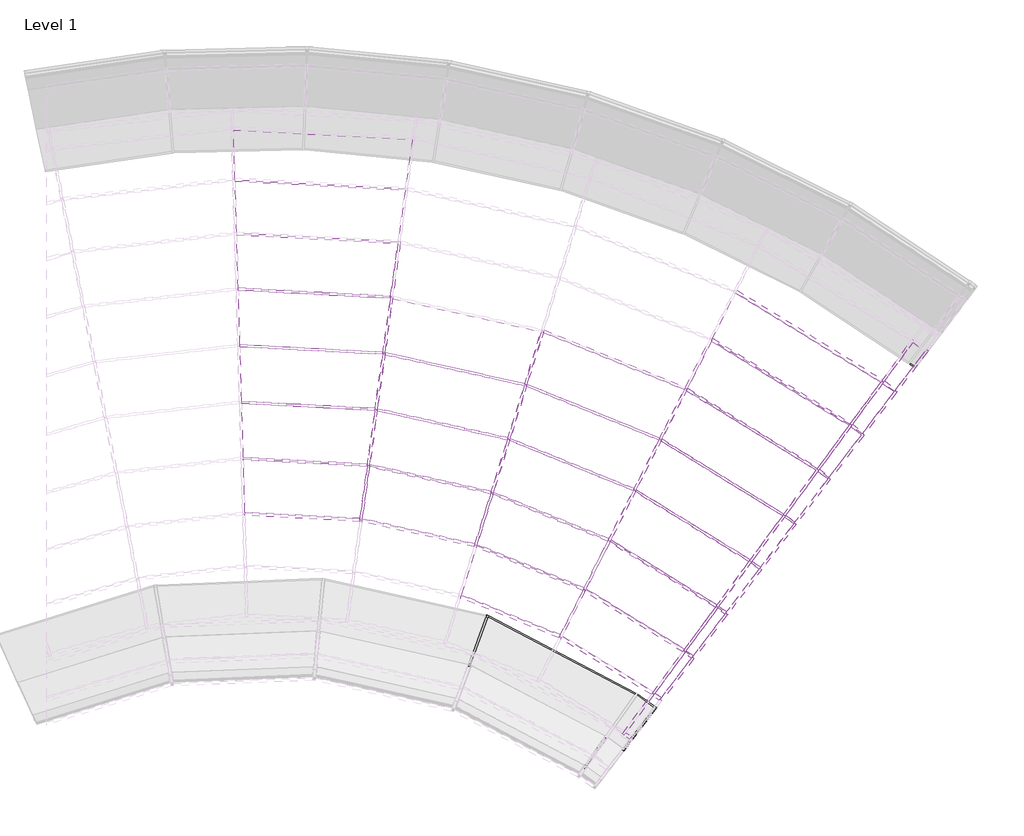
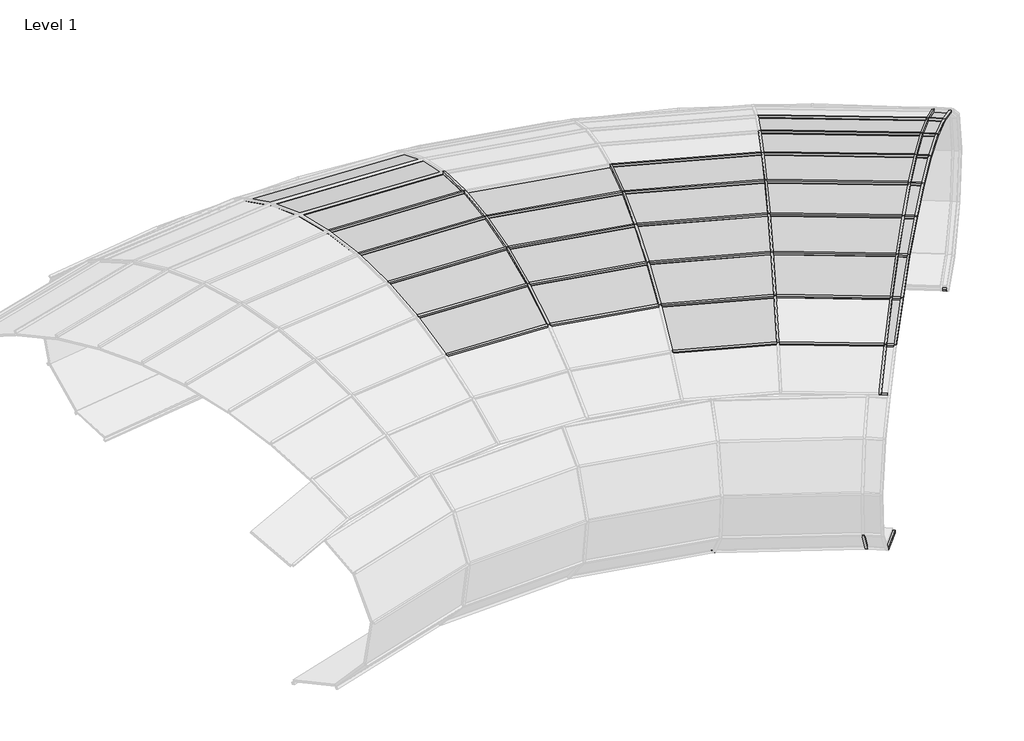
# One storey, part 11 of 23: 70 members, 30 plates.
"""IFC4 building model written with IfcOpenShell, lengths in millimetres."""

from ifc_helpers import new_model, si_unit, origin, place, context, project, spatial, transform, mapped, element, save
from components import member_bff08ed3, member_9d0ecc57, member_3a6df916, member_eca8a4a2, member_088ab3f2, member_d0141056, member_eb56ffe8, member_dc232313, member_20936006, member_c628317b, member_691cbd0a, member_6de91377, member_1afcac62, member_1c681369, member_9272082a, member_20199af6, member_5b501c0e, member_86ced42f, member_955aa5bb, member_c28afb9a, member_d6b8231b, member_98341453, member_8c9da58c, member_173a6c74, member_3142c306, member_0cd36c09, member_d0a40a1c, member_e4cc2466, member_9a5219bf, member_20c667eb, member_7149052c, system_panel_glazed_11031df9, system_panel_glazed_55877d03, system_panel_glazed_6b8754b1, system_panel_glazed_fa29fb8c, system_panel_glazed_51026fb6, system_panel_glazed_eab3d7f1, system_panel_glazed_e1e187d2, system_panel_glazed_d7dbf363, system_panel_glazed_71638be0, system_panel_glazed_d8ad03ad, system_panel_glazed_05378adf, system_panel_glazed_bcda8126, system_panel_glazed_d39a2736, system_panel_glazed_5c131dfc, system_panel_glazed_45b67513, system_panel_glazed_db05a576

model = new_model("IFC4")

# Units and contexts
model_context = context("Model", 3, world=origin())
ifc_project = project(units=[si_unit("LENGTHUNIT", "METRE", prefix="MILLI")], contexts=[model_context])

# Site, building, storey
site = spatial("IfcSite", under=ifc_project)
building = spatial("IfcBuilding", under=site)
storey = spatial("IfcBuildingStorey", under=building, Name="Level 1", Elevation=0.0)

# Members
placement = place(None, origin())
member_shape = member_bff08ed3(model_context)
element("IfcMember", 1, ObjectType="Rectangular Mullion : 1\" Square", at=placement, inside=storey, context=model_context, shape_type="MappedRepresentation", body=[
    mapped(member_shape, transform((2301.5056599, -6690.896124, 0.0), x_axis=(0.445109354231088, 0.8497435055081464, -0.28251307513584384), y_axis=(-0.1310893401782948, -0.25025831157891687, -0.9592634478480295), z_axis=(-0.8858291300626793, 0.46401158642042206, 0.0))),
])
member_2_shape = member_9d0ecc57(model_context)
element("IfcMember", 2, ObjectType="Rectangular Mullion : 1\" Square", at=placement, inside=storey, context=model_context, shape_type="MappedRepresentation", body=[
    mapped(member_2_shape, transform((3896.1567783, -7528.3327614, 0.0), x_axis=(0.5669356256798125, 0.7745913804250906, -0.28034298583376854), y_axis=(-0.16557604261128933, -0.2262228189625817, -0.9598998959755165), z_axis=(-0.8069501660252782, 0.5906195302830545, 0.0))),
])
member_3_shape = member_3a6df916(model_context)
element("IfcMember", 3, ObjectType="Rectangular Mullion : 1\" Square", at=placement, inside=storey, context=model_context, shape_type="MappedRepresentation", body=[
    mapped(member_3_shape, transform((2325.1422191, -5370.4577997, 2763.3769688), x_axis=(0.21296612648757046, 0.956219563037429, 0.20072263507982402), y_axis=(-0.04363518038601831, -0.19592229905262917, 0.9796481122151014), z_axis=(0.9760847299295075, -0.21739043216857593, 0.0))),
])
element("IfcMember", 4, ObjectType="Rectangular Mullion : 1\" Square", at=placement, inside=storey, context=model_context, shape_type="MappedRepresentation", body=[
    mapped(member_3_shape, transform((3580.451597, -5876.7686495, 2763.3769688), x_axis=(0.3678494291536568, 0.9079632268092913, 0.20072263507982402), y_axis=(-0.07536962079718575, -0.18603493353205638, 0.9796481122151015), z_axis=(0.9268258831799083, -0.3754913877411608, 0.0))),
])
element("IfcMember", 5, ObjectType="Rectangular Mullion : 1\" Square", at=placement, inside=storey, context=model_context, shape_type="MappedRepresentation", body=[
    mapped(member_3_shape, transform((4734.9935766, -6583.2989946, 2763.3769688), x_axis=(0.5126454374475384, 0.8348084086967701, 0.2007226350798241), y_axis=(-0.105037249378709, -0.1710460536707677, 0.9796481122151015), z_axis=(0.8521512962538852, -0.523295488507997, 0.0))),
])
element("IfcMember", 6, ObjectType="Rectangular Mullion : 1\" Square", at=placement, inside=storey, context=model_context, shape_type="MappedRepresentation", body=[
    mapped(member_3_shape, transform((1003.4889711, -5078.2506764, 2763.3769688), x_axis=(0.05224279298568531, 0.9782541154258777, 0.20072263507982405), y_axis=(-0.010704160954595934, -0.20043701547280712, 0.9796481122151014), z_axis=(0.9985770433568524, -0.05332812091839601, 0.0))),
])
member_4_shape = member_eca8a4a2(model_context)
element("IfcMember", 7, ObjectType="Rectangular Mullion : 1\" Square", at=placement, inside=storey, context=model_context, shape_type="MappedRepresentation", body=[
    mapped(member_4_shape, transform((4836.4355375, -6657.7087757, 2763.3769688), x_axis=(0.5866174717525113, 0.7844743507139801, 0.20119625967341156), y_axis=(-0.12048912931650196, -0.1611282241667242, 0.9795509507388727), z_axis=(0.8008509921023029, -0.5988636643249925, 0.0))),
])
member_5_shape = member_088ab3f2(model_context)
element("IfcMember", 8, ObjectType="Rectangular Mullion : 1\" Square", at=placement, inside=storey, context=model_context, shape_type="MappedRepresentation", body=[
    mapped(member_5_shape, transform((1085.4446195, -4480.4538718, 2850.17796), x_axis=(0.053143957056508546, 0.995128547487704, 0.08303549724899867), y_axis=(-0.004428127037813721, -0.08291734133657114, 0.996546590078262), z_axis=(0.9985770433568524, -0.05332812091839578, 0.0))),
])
element("IfcMember", 9, ObjectType="Rectangular Mullion : 1\" Square", at=placement, inside=storey, context=model_context, shape_type="MappedRepresentation", body=[
    mapped(member_5_shape, transform((2504.6275681, -4794.3824943, 2850.17796), x_axis=(0.2166396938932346, 0.9727139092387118, 0.08303549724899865), y_axis=(-0.01805112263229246, -0.08104968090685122, 0.996546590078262), z_axis=(0.9760847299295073, -0.21739043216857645, 0.0))),
])
element("IfcMember", 10, ObjectType="Rectangular Mullion : 1\" Square", at=placement, inside=storey, context=model_context, shape_type="MappedRepresentation", body=[
    mapped(member_5_shape, transform((3852.5447372, -5338.2121799, 2850.17796), x_axis=(0.3741946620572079, 0.9236251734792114, 0.08303549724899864), y_axis=(-0.03117911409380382, -0.07695944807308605, 0.9965465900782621), z_axis=(0.9268258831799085, -0.3754913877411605, 0.0))),
])
element("IfcMember", 11, ObjectType="Rectangular Mullion : 1\" Square", at=placement, inside=storey, context=model_context, shape_type="MappedRepresentation", body=[
    mapped(member_5_shape, transform((5092.2330757, -6097.0298425, 2850.17796), x_axis=(0.5214883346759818, 0.8492084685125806, 0.08303549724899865), y_axis=(-0.043452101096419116, -0.07075880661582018, 0.996546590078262), z_axis=(0.8521512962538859, -0.5232954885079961, 0.0))),
])
member_6_shape = member_d0141056(model_context)
element("IfcMember", 12, ObjectType="Rectangular Mullion : 1\" Square", at=placement, inside=storey, context=model_context, shape_type="MappedRepresentation", body=[
    mapped(member_6_shape, transform((923.5200016, -5661.5563471, 2605.3528615), x_axis=(0.05060252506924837, 0.94753985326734, 0.31560673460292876), y_axis=(-0.01683071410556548, -0.3151576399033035, 0.9488900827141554), z_axis=(0.9985770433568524, -0.05332812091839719, 0.0))),
])
element("IfcMember", 13, ObjectType="Rectangular Mullion : 1\" Square", at=placement, inside=storey, context=model_context, shape_type="MappedRepresentation", body=[
    mapped(member_6_shape, transform((2150.007757, -5932.5685198, 2605.3528615), x_axis=(0.206279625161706, 0.9261971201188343, 0.3156067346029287), y_axis=(-0.06860988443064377, -0.30805891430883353, 0.9488900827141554), z_axis=(0.9760847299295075, -0.21739043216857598, 0.0))),
])
element("IfcMember", 14, ObjectType="Rectangular Mullion : 1\" Square", at=placement, inside=storey, context=model_context, shape_type="MappedRepresentation", body=[
    mapped(member_6_shape, transform((3314.9542401, -6402.2700244, 2605.3528615), x_axis=(0.35630005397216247, 0.8794558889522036, 0.3156067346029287), y_axis=(-0.11850761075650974, -0.29251249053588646, 0.9488900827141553), z_axis=(0.9268258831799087, -0.3754913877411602, 0.0))),
])
element("IfcMember", 15, ObjectType="Rectangular Mullion : 1\" Square", at=placement, inside=storey, context=model_context, shape_type="MappedRepresentation", body=[
    mapped(member_6_shape, transform((4386.4138853, -7057.7805436, 2605.3528615), x_axis=(0.4965498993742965, 0.8085979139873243, 0.31560673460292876), y_axis=(-0.16515558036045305, -0.2689446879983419, 0.9488900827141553), z_axis=(0.8521512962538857, -0.5232954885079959, 0.0))),
])
member_7_shape = member_eb56ffe8(model_context)
element("IfcMember", 16, ObjectType="Rectangular Mullion : 1\" Square", at=placement, inside=storey, context=model_context, shape_type="MappedRepresentation", body=[
    mapped(member_7_shape, transform((4137.2242306, -7576.4158177, 2378.3537392), x_axis=(0.5415001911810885, 0.7241397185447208, 0.4270822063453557), y_axis=(-0.2557640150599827, -0.34202920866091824, 0.9042128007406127), z_axis=(0.8008509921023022, -0.5988636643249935, 0.0))),
])
member_8_shape = member_dc232313(model_context)
element("IfcMember", 17, ObjectType="Rectangular Mullion : 1\" Square", at=placement, inside=storey, context=model_context, shape_type="MappedRepresentation", body=[
    mapped(member_8_shape, transform((4051.4530067, -7513.724365, 2378.3537392), x_axis=(0.4734185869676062, 0.770930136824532, 0.42607694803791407), y_axis=(-0.22296414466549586, -0.36308202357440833, 0.9046869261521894), z_axis=(0.8521512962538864, -0.5232954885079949, 0.0))),
])
element("IfcMember", 18, ObjectType="Rectangular Mullion : 1\" Square", at=placement, inside=storey, context=model_context, shape_type="MappedRepresentation", body=[
    mapped(member_8_shape, transform((3059.8297158, -6907.2403557, 2378.3537392), x_axis=(0.3397021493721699, 0.8384872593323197, 0.42607694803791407), y_axis=(-0.1599882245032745, -0.39489914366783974, 0.9046869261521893), z_axis=(0.9268258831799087, -0.37549138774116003, 0.0))),
])
member_9_shape = member_20936006(model_context)
element("IfcMember", 19, ObjectType="Rectangular Mullion : 1\" Square", at=placement, inside=storey, context=model_context, shape_type="MappedRepresentation", body=[
    mapped(member_9_shape, transform((5201.8650497, -6177.5639856, 2850.17796), x_axis=(0.5967902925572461, 0.7980783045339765, 0.08314064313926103), y_axis=(-0.04978991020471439, -0.06658326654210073, 0.9965378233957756), z_axis=(0.800850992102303, -0.5988636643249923, 0.0))),
])
member_10_shape = member_c628317b(model_context)
element("IfcMember", 20, ObjectType="Rectangular Mullion : 1\" Square", at=placement, inside=storey, context=model_context, shape_type="MappedRepresentation", body=[
    mapped(member_10_shape, transform((1168.2210198, -3876.6703796, 2864.5209769), x_axis=(0.05329391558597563, 0.997936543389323, -0.03581080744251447), y_axis=(0.001909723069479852, 0.035759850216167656, 0.9993585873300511), z_axis=(0.9985770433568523, -0.05332812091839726, 0.0))),
])
element("IfcMember", 21, ObjectType="Rectangular Mullion : 1\" Square", at=placement, inside=storey, context=model_context, shape_type="MappedRepresentation", body=[
    mapped(member_10_shape, transform((2685.9103885, -4212.5380333, 2864.5209769), x_axis=(0.2172509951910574, 0.9754586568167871, -0.03581080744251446), y_axis=(0.007784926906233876, 0.03495438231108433, 0.999358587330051), z_axis=(0.9760847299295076, -0.21739043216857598, 0.0))),
])
element("IfcMember", 22, ObjectType="Rectangular Mullion : 1\" Square", at=placement, inside=storey, context=model_context, shape_type="MappedRepresentation", body=[
    mapped(member_10_shape, transform((4127.3627775, -4794.2622901, 2864.5209769), x_axis=(0.375250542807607, 0.9262314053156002, -0.03581080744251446), y_axis=(0.013446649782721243, 0.0331903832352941, 0.999358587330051), z_axis=(0.9268258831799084, -0.37549138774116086, 0.0))),
])
element("IfcMember", 23, ObjectType="Rectangular Mullion : 1\" Square", at=placement, inside=storey, context=model_context, shape_type="MappedRepresentation", body=[
    mapped(member_10_shape, transform((5453.0501805, -5605.8909062, 2864.5209769), x_axis=(0.5229598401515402, 0.8516047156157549, -0.03581080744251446), y_axis=(0.018739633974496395, 0.03051622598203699, 0.999358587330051), z_axis=(0.8521512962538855, -0.5232954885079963, 0.0))),
])
member_11_shape = member_691cbd0a(model_context)
element("IfcMember", 24, ObjectType="Rectangular Mullion : 1\" Square", at=placement, inside=storey, context=model_context, shape_type="MappedRepresentation", body=[
    mapped(member_11_shape, transform((5570.9541872, -5692.6107441, 2864.5209769), x_axis=(0.5984733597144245, 0.800329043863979, -0.036097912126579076), y_axis=(0.021617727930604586, 0.02890904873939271, 0.9993482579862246), z_axis=(0.8008509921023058, -0.5988636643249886, 0.0))),
])
member_12_shape = member_6de91377(model_context)
element("IfcMember", 25, ObjectType="Rectangular Mullion : 1\" Square", at=placement, inside=storey, context=model_context, shape_type="MappedRepresentation", body=[
    mapped(member_12_shape, transform((1250.6405687, -3275.4898148, 2806.2019711), x_axis=(0.052690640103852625, 0.9866401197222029, -0.1541589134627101), y_axis=(0.008221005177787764, 0.15393955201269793, 0.9880460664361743), z_axis=(0.9985770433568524, -0.053328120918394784, 0.0))),
])
element("IfcMember", 26, ObjectType="Rectangular Mullion : 1\" Square", at=placement, inside=storey, context=model_context, shape_type="MappedRepresentation", body=[
    mapped(member_12_shape, transform((4400.9960697, -4252.6573834, 2806.2019711), x_axis=(0.3710027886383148, 0.9157466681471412, -0.1541589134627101), y_axis=(0.05788534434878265, 0.14287847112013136, 0.9880460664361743), z_axis=(0.9268258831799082, -0.3754913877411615, 0.0))),
])
element("IfcMember", 27, ObjectType="Rectangular Mullion : 1\" Square", at=placement, inside=storey, context=model_context, shape_type="MappedRepresentation", body=[
    mapped(member_12_shape, transform((5812.3117927, -5116.8692835, 2806.2019711), x_axis=(0.5170400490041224, 0.8419647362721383, -0.15415891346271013), y_axis=(0.0806706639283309, 0.13136671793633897, 0.9880460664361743), z_axis=(0.8521512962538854, -0.5232954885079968, 0.0))),
])
member_13_shape = member_1afcac62(model_context)
element("IfcMember", 28, ObjectType="Rectangular Mullion : 1\" Square", at=placement, inside=storey, context=model_context, shape_type="MappedRepresentation", body=[
    mapped(member_13_shape, transform((5938.4521712, -5209.7481494, 2806.2019711), x_axis=(0.5916426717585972, 0.7911944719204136, -0.15482330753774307), y_axis=(0.09271805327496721, 0.1239903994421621, 0.9879421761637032), z_axis=(0.8008509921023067, -0.598863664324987, 0.0))),
])
member_14_shape = member_1c681369(model_context)
element("IfcMember", 29, ObjectType="Rectangular Mullion : 1\" Square", at=placement, inside=storey, context=model_context, shape_type="MappedRepresentation", body=[
    mapped(member_14_shape, transform((6164.9069432, -4636.9219506, 2676.0506073), x_axis=(0.5038079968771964, 0.8204172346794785, -0.27035728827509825), y_axis=(0.14147674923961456, 0.2303853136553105, 0.9627600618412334), z_axis=(0.852151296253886, -0.5232954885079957, 0.0))),
])
member_15_shape = member_9272082a(model_context)
element("IfcMember", 30, ObjectType="Rectangular Mullion : 1\" Square", at=placement, inside=storey, context=model_context, shape_type="MappedRepresentation", body=[
    mapped(member_15_shape, transform((6299.1308592, -4735.8455576, 2676.0506073), x_axis=(0.5763952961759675, 0.7708043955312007, -0.2713467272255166), y_axis=(0.16249969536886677, 0.21730829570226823, 0.9624816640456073), z_axis=(0.8008509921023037, -0.5988636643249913, 0.0))),
])
member_16_shape = member_20199af6(model_context)
element("IfcMember", 31, ObjectType="Rectangular Mullion : 1\" Square", at=placement, inside=storey, context=model_context, shape_type="MappedRepresentation", body=[
    mapped(member_16_shape, transform((6505.8195017, -4172.87679, 2475.91846), x_axis=(0.4834411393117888, 0.7872511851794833, -0.3827796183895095), y_axis=(0.20030684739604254, 0.32618614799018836, 0.9238396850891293), z_axis=(0.852151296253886, -0.5232954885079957, 0.0))),
])
member_17_shape = member_5b501c0e(model_context)
element("IfcMember", 32, ObjectType="Rectangular Mullion : 1\" Square", at=placement, inside=storey, context=model_context, shape_type="MappedRepresentation", body=[
    mapped(member_17_shape, transform((6647.8591221, -4277.6448567, 2475.91846), x_axis=(0.5529479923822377, 0.7394486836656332, -0.38401062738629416), y_axis=(0.2299700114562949, 0.30753529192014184, 0.9233286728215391), z_axis=(0.8008509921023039, -0.598863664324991, 0.0))),
])
member_18_shape = member_86ced42f(model_context)
element("IfcMember", 33, ObjectType="Rectangular Mullion : 1\" Square", at=placement, inside=storey, context=model_context, shape_type="MappedRepresentation", body=[
    mapped(member_18_shape, transform((4479.8643664, -7126.2144229, 2605.3528615), x_axis=(0.5680996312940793, 0.7597107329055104, 0.316389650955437), y_axis=(-0.18947426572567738, -0.2533809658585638, 0.9486293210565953), z_axis=(0.8008509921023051, -0.5988636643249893, 0.0))),
])
member_19_shape = member_955aa5bb(model_context)
element("IfcMember", 34, ObjectType="Rectangular Mullion : 1\" Square", at=placement, inside=storey, context=model_context, shape_type="MappedRepresentation", body=[
    mapped(member_19_shape, transform((3755.8693293, -7958.8954791, 2085.6089632), x_axis=(-0.5252863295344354, -0.702457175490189, -0.4802376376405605), y_axis=(-0.2875968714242, -0.38459878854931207, 0.8771384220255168), z_axis=(-0.800850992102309, 0.5988636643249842, 0.0))),
])
member_20_shape = member_c28afb9a(model_context)
element("IfcMember", 35, ObjectType="Rectangular Mullion : 1\" Square", at=placement, inside=storey, context=model_context, shape_type="MappedRepresentation", body=[
    mapped(member_20_shape, transform((6843.6513643, -4020.3884594, 0.0), x_axis=(-0.586881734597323, -0.7767931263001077, -0.22839060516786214), y_axis=(0.13767713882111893, 0.18222863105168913, -0.9735695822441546), z_axis=(0.7978814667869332, -0.6028143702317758, 0.0))),
])
member_21_shape = member_d6b8231b(model_context)
element("IfcMember", 36, ObjectType="Rectangular Mullion : 1\" Square", at=placement, inside=storey, context=model_context, shape_type="MappedRepresentation", body=[
    mapped(member_21_shape, transform((2290.2556299, -6685.0031769, 0.0), x_axis=(0.9387056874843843, -0.34471964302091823, 0.0), y_axis=(-0.0966241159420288, -0.2631170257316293, -0.9599131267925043), z_axis=(0.33090091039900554, 0.9010759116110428, -0.28029767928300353))),
])
member_22_shape = member_98341453(model_context)
element("IfcMember", 37, ObjectType="Rectangular Mullion : 1\" Square", at=placement, inside=storey, context=model_context, shape_type="MappedRepresentation", body=[
    mapped(member_22_shape, transform((4094.9824837, -7673.8564252, 0.0), x_axis=(0.7966275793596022, -0.6044494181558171, 0.00503991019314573), y_axis=(-0.16557604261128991, -0.22622281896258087, -0.9598998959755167), z_axis=(0.581351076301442, 0.7638482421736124, -0.28029767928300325))),
])
member_23_shape = member_8c9da58c(model_context)
element("IfcMember", 38, ObjectType="Rectangular Mullion : 1\" Square", at=placement, inside=storey, context=model_context, shape_type="MappedRepresentation", body=[
    mapped(member_23_shape, transform((3549.2039194, -7999.4191933, 170.8694653), x_axis=(0.817870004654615, -0.5754030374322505, 0.0), y_axis=(-0.43316610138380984, -0.6156963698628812, -0.6582439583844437), z_axis=(0.37875557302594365, 0.538357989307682, -0.7528046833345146))),
])
member_24_shape = member_173a6c74(model_context)
element("IfcMember", 39, ObjectType="Rectangular Mullion : 1\" Square", at=placement, inside=storey, context=model_context, shape_type="MappedRepresentation", body=[
    mapped(member_24_shape, transform((5958.7937864, -5224.9592865, 2806.2019711), x_axis=(0.7959799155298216, -0.6053204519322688, 0.0017676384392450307), y_axis=(0.12786350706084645, 0.17098986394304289, 0.9769408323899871), z_axis=(-0.5916645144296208, -0.7773992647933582, 0.21350289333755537))),
])
element("IfcMember", 40, ObjectType="Rectangular Mullion : 1\" Square", at=placement, inside=storey, context=model_context, shape_type="MappedRepresentation", body=[
    mapped(member_24_shape, transform((6319.4724744, -4751.0566947, 2676.0506073), x_axis=(0.7962973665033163, -0.6048996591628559, 0.0026280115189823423), y_axis=(0.19661369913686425, 0.26292841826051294, 0.9445695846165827), z_axis=(-0.5720607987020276, -0.7516415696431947, 0.32830076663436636))),
])
member_25_shape = member_3142c306(model_context)
element("IfcMember", 41, ObjectType="Rectangular Mullion : 1\" Square", at=placement, inside=storey, context=model_context, shape_type="MappedRepresentation", body=[
    mapped(member_25_shape, transform((6668.2007373, -4292.8559938, 2475.91846), x_axis=(0.7967283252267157, -0.6043284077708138, 0.0033393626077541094), y_axis=(0.26256629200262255, 0.35112578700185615, 0.8987600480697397), z_axis=(-0.544318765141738, -0.7151907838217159, 0.43842812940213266))),
])
member_26_shape = member_0cd36c09(model_context)
element("IfcMember", 42, ObjectType="Rectangular Mullion : 1\" Square", at=placement, inside=storey, context=model_context, shape_type="MappedRepresentation", body=[
    mapped(member_26_shape, transform((1263.3224971, -3276.1670819, 2806.2019711), x_axis=(0.9907327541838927, -0.13582565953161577, 0.0), y_axis=(0.02899917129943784, 0.21152430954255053, 0.9769424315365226), z_axis=(-0.1326938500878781, -0.9678888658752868, 0.2135028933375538))),
])
element("IfcMember", 43, ObjectType="Rectangular Mullion : 1\" Square", at=placement, inside=storey, context=model_context, shape_type="MappedRepresentation", body=[
    mapped(member_26_shape, transform((4412.7667584, -4257.426124, 2806.2019711), x_axis=(0.8925533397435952, -0.4509418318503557, 0.0), y_axis=(0.09627738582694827, 0.19056272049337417, 0.9769424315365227), z_axis=(-0.4405442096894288, -0.8719732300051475, 0.21350289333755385))),
])
element("IfcMember", 44, ObjectType="Rectangular Mullion : 1\" Square", at=placement, inside=storey, context=model_context, shape_type="MappedRepresentation", body=[
    mapped(member_26_shape, transform((5823.1341142, -5123.5151362, 2806.2019711), x_axis=(0.8058972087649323, -0.5920554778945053, 0.0), y_axis=(0.1264055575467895, 0.1720613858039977, 0.9769424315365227), z_axis=(-0.5784041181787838, -0.787315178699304, 0.2135028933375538))),
])
element("IfcMember", 45, ObjectType="Rectangular Mullion : 1\" Square", at=placement, inside=storey, context=model_context, shape_type="MappedRepresentation", body=[
    mapped(member_26_shape, transform((6175.7292646, -4643.5678033, 2676.0506073), x_axis=(0.8058972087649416, -0.5920554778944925, 0.0), y_axis=(0.1943722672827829, 0.264576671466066, 0.9445732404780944), z_axis=(-0.5592397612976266, -0.7612289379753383, 0.3283007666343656))),
])
member_27_shape = member_d0a40a1c(model_context)
element("IfcMember", 46, ObjectType="Rectangular Mullion : 1\" Square", at=placement, inside=storey, context=model_context, shape_type="MappedRepresentation", body=[
    mapped(member_27_shape, transform((6516.6418231, -4179.5226427, 2475.91846), x_axis=(0.805897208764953, -0.5920554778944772, 0.0), y_axis=(0.2595737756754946, 0.3533280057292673, 0.8987662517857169), z_axis=(-0.5321194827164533, -0.7243132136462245, 0.4384281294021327))),
])
element("IfcMember", 47, ObjectType="Rectangular Mullion : 1\" Square", at=placement, inside=storey, context=model_context, shape_type="MappedRepresentation", body=[
    mapped(member_26_shape, transform((936.20193, -5662.2336142, 2605.3528615), x_axis=(0.9907327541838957, -0.13582565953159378, 0.0), y_axis=(-0.035209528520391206, -0.2568235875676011, 0.9658167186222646), z_axis=(-0.13118269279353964, -0.9568662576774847, -0.259225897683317))),
])
element("IfcMember", 48, ObjectType="Rectangular Mullion : 1\" Square", at=placement, inside=storey, context=model_context, shape_type="MappedRepresentation", body=[
    mapped(member_26_shape, transform((1016.1708995, -5078.9279436, 2763.3769688), x_axis=(0.9907327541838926, -0.13582565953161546, 0.0), y_axis=(-0.01934022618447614, -0.1410705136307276, 0.9898106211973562), z_axis=(-0.13444168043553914, -0.980637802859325, -0.1423900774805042))),
])
element("IfcMember", 49, ObjectType="Rectangular Mullion : 1\" Square", at=placement, inside=storey, context=model_context, shape_type="MappedRepresentation", body=[
    mapped(member_26_shape, transform((2162.404033, -5935.3293783, 2605.3528615), x_axis=(0.9547335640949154, -0.29746230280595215, 0.0), y_axis=(-0.07710993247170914, -0.24749166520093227, 0.9658167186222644), z_axis=(-0.2872940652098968, -0.9220976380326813, -0.2592258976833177))),
])
element("IfcMember", 50, ObjectType="Rectangular Mullion : 1\" Square", at=placement, inside=storey, context=model_context, shape_type="MappedRepresentation", body=[
    mapped(member_26_shape, transform((2337.5384952, -5373.2186582, 2763.3769688), x_axis=(0.954733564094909, -0.2974623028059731, 0.0), y_axis=(-0.042355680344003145, -0.1359445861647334, 0.9898106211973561), z_axis=(-0.29443134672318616, -0.9450054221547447, -0.14239007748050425))),
])
element("IfcMember", 51, ObjectType="Rectangular Mullion : 1\" Square", at=placement, inside=storey, context=model_context, shape_type="MappedRepresentation", body=[
    mapped(member_26_shape, transform((3071.6004045, -6912.0090964, 2378.3537392), x_axis=(0.8925533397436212, -0.450941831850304, 0.0), y_axis=(-0.1679189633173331, -0.33236355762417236, 0.9280828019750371), z_axis=(-0.4185113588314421, -0.828363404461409, -0.37237388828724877))),
])
element("IfcMember", 52, ObjectType="Rectangular Mullion : 1\" Square", at=placement, inside=storey, context=model_context, shape_type="MappedRepresentation", body=[
    mapped(member_26_shape, transform((3326.7249288, -6407.038765, 2605.3528615), x_axis=(0.8925533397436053, -0.4509418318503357, 0.0), y_axis=(-0.11689580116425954, -0.2313729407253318, 0.9658167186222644), z_axis=(-0.4355271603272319, -0.8620429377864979, -0.2592258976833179))),
])
element("IfcMember", 53, ObjectType="Rectangular Mullion : 1\" Square", at=placement, inside=storey, context=model_context, shape_type="MappedRepresentation", body=[
    mapped(member_26_shape, transform((3592.2222858, -5881.5373901, 2763.3769688), x_axis=(0.8925533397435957, -0.45094183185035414, 0.0), y_axis=(-0.06420964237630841, -0.12709073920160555, 0.9898106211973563), z_axis=(-0.44634701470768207, -0.8834587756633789, -0.142390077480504))),
])
element("IfcMember", 54, ObjectType="Rectangular Mullion : 1\" Square", at=placement, inside=storey, context=model_context, shape_type="MappedRepresentation", body=[
    mapped(member_26_shape, transform((4062.2753281, -7520.3702177, 2378.3537392), x_axis=(0.8058972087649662, -0.5920554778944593, 0.0), y_axis=(-0.2204660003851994, -0.300095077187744, 0.9280828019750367), z_axis=(-0.5494765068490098, -0.7479393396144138, -0.37237388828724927))),
])
element("IfcMember", 55, ObjectType="Rectangular Mullion : 1\" Square", at=placement, inside=storey, context=model_context, shape_type="MappedRepresentation", body=[
    mapped(member_26_shape, transform((4397.2362067, -7064.4263963, 2605.3528615), x_axis=(0.8058972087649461, -0.5920554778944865, 0.0), y_axis=(-0.15347611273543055, -0.20890942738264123, 0.9658167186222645), z_axis=(-0.5718170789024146, -0.778348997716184, -0.2592258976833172))),
])
element("IfcMember", 56, ObjectType="Rectangular Mullion : 1\" Square", at=placement, inside=storey, context=model_context, shape_type="MappedRepresentation", body=[
    mapped(member_26_shape, transform((4745.815898, -6589.9448473, 2763.3769688), x_axis=(0.8058972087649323, -0.5920554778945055, 0.0), y_axis=(-0.08430282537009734, -0.11475176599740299, 0.9898106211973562), z_axis=(-0.5860228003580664, -0.797685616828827, -0.14239007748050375))),
])
element("IfcMember", 57, ObjectType="Rectangular Mullion : 1\" Square", at=placement, inside=storey, context=model_context, shape_type="MappedRepresentation", body=[
    mapped(member_26_shape, transform((1098.1265479, -4481.1311389, 2850.17796), x_axis=(0.9907327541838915, -0.13582565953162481, 0.0), y_axis=(-0.0031957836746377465, -0.02331052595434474, 0.9997231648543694), z_axis=(-0.1357880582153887, -0.9904584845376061, -0.023528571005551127))),
])
element("IfcMember", 58, ObjectType="Rectangular Mullion : 1\" Square", at=placement, inside=storey, context=model_context, shape_type="MappedRepresentation", body=[
    mapped(member_26_shape, transform((2517.0238442, -4797.1433528, 2850.17796), x_axis=(0.9547335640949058, -0.29746230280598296, 0.0), y_axis=(-0.006998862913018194, -0.02246351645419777, 0.9997231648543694), z_axis=(-0.29737995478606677, -0.9544692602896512, -0.023528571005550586))),
])
element("IfcMember", 59, ObjectType="Rectangular Mullion : 1\" Square", at=placement, inside=storey, context=model_context, shape_type="MappedRepresentation", body=[
    mapped(member_26_shape, transform((3864.3154259, -5342.9809205, 2850.17796), x_axis=(0.892553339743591, -0.4509418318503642, 0.0), y_axis=(-0.010610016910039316, -0.021000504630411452, 0.9997231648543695), z_axis=(-0.4508169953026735, -0.8923062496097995, -0.023528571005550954))),
])
element("IfcMember", 60, ObjectType="Rectangular Mullion : 1\" Square", at=placement, inside=storey, context=model_context, shape_type="MappedRepresentation", body=[
    mapped(member_26_shape, transform((5103.0553971, -6103.6756952, 2850.17796), x_axis=(0.805897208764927, -0.5920554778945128, 0.0), y_axis=(-0.013930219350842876, -0.01896160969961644, 0.9997231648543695), z_axis=(-0.5918915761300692, -0.8056741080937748, -0.02352857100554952))),
])
element("IfcMember", 61, ObjectType="Rectangular Mullion : 1\" Square", at=placement, inside=storey, context=model_context, shape_type="MappedRepresentation", body=[
    mapped(member_26_shape, transform((1180.9029482, -3877.3476468, 2864.5209769), x_axis=(0.9907327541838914, -0.1358256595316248, 0.0), y_axis=(0.012994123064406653, 0.09478108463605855, 0.9954133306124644), z_axis=(-0.13520267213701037, -0.9861885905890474, 0.09566766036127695))),
])
element("IfcMember", 62, ObjectType="Rectangular Mullion : 1\" Square", at=placement, inside=storey, context=model_context, shape_type="MappedRepresentation", body=[
    mapped(member_26_shape, transform((2698.3066646, -4215.2988917, 2864.5209769), x_axis=(0.9547335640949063, -0.2974623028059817, 0.0), y_axis=(0.028457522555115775, 0.09133712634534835, 0.9954133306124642), z_axis=(-0.2960979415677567, -0.950354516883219, 0.0956676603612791))),
])
element("IfcMember", 63, ObjectType="Rectangular Mullion : 1\" Square", at=placement, inside=storey, context=model_context, shape_type="MappedRepresentation", body=[
    mapped(member_26_shape, transform((4139.1334663, -4799.0310307, 2864.5209769), x_axis=(0.8925533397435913, -0.45094183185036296, 0.0), y_axis=(0.043140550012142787, 0.08538848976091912, 0.9954133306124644), z_axis=(-0.4488735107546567, -0.8884594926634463, 0.09566766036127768))),
])
element("IfcMember", 64, ObjectType="Rectangular Mullion : 1\" Square", at=placement, inside=storey, context=model_context, shape_type="MappedRepresentation", body=[
    mapped(member_26_shape, transform((5463.8725019, -5612.5367589, 2864.5209769), x_axis=(0.8058972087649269, -0.5920554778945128, 0.0), y_axis=(0.05664056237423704, 0.07709830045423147, 0.9954133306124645), z_axis=(-0.5893399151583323, -0.8022008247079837, 0.0956676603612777))),
])
member_28_shape = member_e4cc2466(model_context)
element("IfcMember", 65, ObjectType="Rectangular Mullion : 1\" Square", at=placement, inside=storey, context=model_context, shape_type="MappedRepresentation", body=[
    mapped(member_28_shape, transform((3745.6985217, -7951.2899105, 2085.6089632), x_axis=(0.8058972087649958, -0.5920554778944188, 0.0), y_axis=(-0.284319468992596, -0.3870114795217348, 0.8771456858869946), z_axis=(-0.5193189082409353, -0.7068892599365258, -0.4802243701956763))),
])
member_29_shape = member_9a5219bf(model_context)
element("IfcMember", 66, ObjectType="Rectangular Mullion : 1\" Square", at=placement, inside=storey, context=model_context, shape_type="MappedRepresentation", body=[
    mapped(member_29_shape, transform((4157.5658458, -7591.6269548, 2378.3537392), x_axis=(0.7964549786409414, -0.6046907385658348, -0.0029287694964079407), y_axis=(-0.22300808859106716, -0.29822522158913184, 0.9280781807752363), z_axis=(-0.5620737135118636, -0.7385193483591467, -0.37237388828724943))),
])
element("IfcMember", 67, ObjectType="Rectangular Mullion : 1\" Square", at=placement, inside=storey, context=model_context, shape_type="MappedRepresentation", body=[
    mapped(member_29_shape, transform((4500.2059816, -7141.42556, 2605.3528615), x_axis=(0.7960902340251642, -0.6051742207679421, -0.002121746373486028), y_axis=(-0.15524617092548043, -0.2076082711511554, 0.9658143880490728), z_axis=(-0.5849264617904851, -0.7685460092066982, -0.2592258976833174))),
])
element("IfcMember", 68, ObjectType="Rectangular Mullion : 1\" Square", at=placement, inside=storey, context=model_context, shape_type="MappedRepresentation", body=[
    mapped(member_29_shape, transform((4856.7771527, -6672.9199128, 2763.3769688), x_axis=(0.7958507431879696, -0.6054916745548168, -0.0011944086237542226), y_axis=(-0.0852752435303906, -0.11403724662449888, 0.9898099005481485), z_axis=(-0.5994578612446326, -0.7876390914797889, -0.14239007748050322))),
])
member_30_shape = member_20c667eb(model_context)
element("IfcMember", 69, ObjectType="Rectangular Mullion : 1\" Square", at=placement, inside=storey, context=model_context, shape_type="MappedRepresentation", body=[
    mapped(member_30_shape, transform((5222.2066649, -6192.7751226, 2850.17796), x_axis=(0.7957500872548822, -0.6056250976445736, -0.00019934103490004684), y_axis=(-0.014090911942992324, -0.01884355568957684, 0.9997231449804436), z_axis=(-0.6054611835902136, -0.7955269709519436, -0.02352857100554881))),
])
member_31_shape = member_7149052c(model_context)
element("IfcMember", 70, ObjectType="Rectangular Mullion : 1\" Square", at=placement, inside=storey, context=model_context, shape_type="MappedRepresentation", body=[
    mapped(member_31_shape, transform((5591.2958024, -5707.8218811, 2864.5209769), x_axis=(0.7957939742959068, -0.6055669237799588, 0.0008070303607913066), y_axis=(0.0572939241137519, 0.07661826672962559, 0.9954130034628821), z_axis=(-0.6028510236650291, -0.7920974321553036, 0.09566766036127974))),
])

# Plates
system_panel_glazed_shape = system_panel_glazed_11031df9(model_context)
element("IfcPlate", 71, ObjectType="System Panel : Glazed", at=placement, inside=storey, context=model_context, shape_type="MappedRepresentation", body=[
    mapped(system_panel_glazed_shape, transform((2537.2798598, -6682.824973, 2383.0969125), x_axis=(0.926825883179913, -0.3754913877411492, 0.0), y_axis=(0.14023785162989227, 0.34614927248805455, -0.9276389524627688), z_axis=(0.34832043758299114, 0.8597597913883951, 0.3734782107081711))),
])
system_panel_glazed_2_shape = system_panel_glazed_55877d03(model_context)
element("IfcPlate", 72, ObjectType="System Panel : Glazed", at=placement, inside=storey, context=model_context, shape_type="MappedRepresentation", body=[
    mapped(system_panel_glazed_2_shape, transform((4111.8935881, -7542.7563797, 2383.0830339), x_axis=(0.8008509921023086, -0.5988636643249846, 0.0), y_axis=(0.22300808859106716, 0.29822522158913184, -0.9280781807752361), z_axis=(0.5557923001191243, 0.7432523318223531, 0.3723854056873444))),
])
system_panel_glazed_3_shape = system_panel_glazed_6b8754b1(model_context)
element("IfcPlate", 73, ObjectType="System Panel : Glazed", at=placement, inside=storey, context=model_context, shape_type="MappedRepresentation", body=[
    mapped(system_panel_glazed_3_shape, transform((309.6269084, -5616.4914281, 2608.6556077), x_axis=(0.998577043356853, -0.05332812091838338, 0.0), y_axis=(0.01386844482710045, 0.2596887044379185, -0.9655927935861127), z_axis=(0.05149324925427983, 0.9642187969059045, 0.2600587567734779))),
])
element("IfcPlate", 74, ObjectType="System Panel : Glazed", at=placement, inside=storey, context=model_context, shape_type="MappedRepresentation", body=[
    mapped(system_panel_glazed_3_shape, transform((1551.9688466, -5786.8117414, 2608.6556077), x_axis=(0.97608472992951, -0.2173904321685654, 0.0), y_axis=(0.05653428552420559, 0.25383938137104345, -0.9655927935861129), z_axis=(0.2099106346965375, 0.942500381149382, 0.2600587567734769))),
])
element("IfcPlate", 75, ObjectType="System Panel : Glazed", at=placement, inside=storey, context=model_context, shape_type="MappedRepresentation", body=[
    mapped(system_panel_glazed_3_shape, transform((2749.1691425, -6159.8183795, 2608.6556077), x_axis=(0.9268258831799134, -0.3754913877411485, 0.0), y_axis=(0.09764982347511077, 0.2410291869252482, -0.9655927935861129), z_axis=(0.36257177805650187, 0.894936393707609, 0.2600587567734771))),
])
element("IfcPlate", 76, ObjectType="System Panel : Glazed", at=placement, inside=storey, context=model_context, shape_type="MappedRepresentation", body=[
    mapped(system_panel_glazed_3_shape, transform((3868.3977552, -6725.282625, 2608.6556077), x_axis=(0.8521512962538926, -0.5232954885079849, 0.0), y_axis=(0.13608757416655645, 0.22160940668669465, -0.9655927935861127), z_axis=(0.5052903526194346, 0.8228311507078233, 0.2600587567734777))),
])
system_panel_glazed_4_shape = system_panel_glazed_fa29fb8c(model_context)
element("IfcPlate", 77, ObjectType="System Panel : Glazed", at=placement, inside=storey, context=model_context, shape_type="MappedRepresentation", body=[
    mapped(system_panel_glazed_4_shape, transform((4450.9810875, -7089.2999542, 2608.6451407), x_axis=(0.800850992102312, -0.5988636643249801, 0.0), y_axis=(0.15524617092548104, 0.20760827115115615, -0.9658143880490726), z_axis=(0.5783911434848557, 0.7734734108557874, 0.25923458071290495))),
])
system_panel_glazed_5_shape = system_panel_glazed_51026fb6(model_context)
element("IfcPlate", 78, ObjectType="System Panel : Glazed", at=placement, inside=storey, context=model_context, shape_type="MappedRepresentation", body=[
    mapped(system_panel_glazed_5_shape, transform((340.9330182, -5030.2798367, 2765.1914265), x_axis=(0.9985770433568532, -0.053328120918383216, 0.0), y_axis=(0.007619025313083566, 0.14266738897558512, -0.9897413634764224), z_axis=(0.052781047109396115, 0.9883330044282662, 0.1428706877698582))),
])
element("IfcPlate", 79, ObjectType="System Panel : Glazed", at=placement, inside=storey, context=model_context, shape_type="MappedRepresentation", body=[
    mapped(system_panel_glazed_5_shape, transform((1679.5872332, -5213.8041937, 2765.1914265), x_axis=(0.9760847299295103, -0.21739043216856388, 0.0), y_axis=(0.031058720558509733, 0.1394538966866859, -0.9897413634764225), z_axis=(0.21516030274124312, 0.9660714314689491, 0.14287068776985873))),
])
element("IfcPlate", 80, ObjectType="System Panel : Glazed", at=placement, inside=storey, context=model_context, shape_type="MappedRepresentation", body=[
    mapped(system_panel_glazed_5_shape, transform((2969.6002103, -5615.7280866, 2765.1914265), x_axis=(0.9268258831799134, -0.37549138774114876, 0.0), y_axis=(0.05364671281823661, 0.13241625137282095, -0.9897413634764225), z_axis=(0.37163935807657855, 0.9173179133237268, 0.1428706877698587))),
])
element("IfcPlate", 81, ObjectType="System Panel : Glazed", at=placement, inside=storey, context=model_context, shape_type="MappedRepresentation", body=[
    mapped(system_panel_glazed_5_shape, transform((4175.5967672, -6225.0298195, 2765.1914265), x_axis=(0.8521512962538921, -0.5232954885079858, 0.0), y_axis=(0.07476358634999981, 0.12174744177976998, -0.9897413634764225), z_axis=(0.5179271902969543, 0.8434093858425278, 0.14287068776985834))),
])
system_panel_glazed_6_shape = system_panel_glazed_eab3d7f1(model_context)
element("IfcPlate", 82, ObjectType="System Panel : Glazed", at=placement, inside=storey, context=model_context, shape_type="MappedRepresentation", body=[
    mapped(system_panel_glazed_6_shape, transform((4803.7390097, -6617.5622959, 2765.1853864), x_axis=(0.8008509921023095, -0.5988636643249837, 0.0), y_axis=(0.08527524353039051, 0.11403724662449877, -0.9898099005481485), z_axis=(0.592761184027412, 0.792690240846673, 0.14239508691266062))),
])
system_panel_glazed_7_shape = system_panel_glazed_e1e187d2(model_context)
element("IfcPlate", 83, ObjectType="System Panel : Glazed", at=placement, inside=storey, context=model_context, shape_type="MappedRepresentation", body=[
    mapped(system_panel_glazed_7_shape, transform((373.0068673, -4429.6922136, 2850.4778018), x_axis=(0.9985770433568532, -0.05332812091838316, 0.0), y_axis=(0.0012590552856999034, 0.02357599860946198, -0.9997212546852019), z_axis=(0.05331325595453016, 0.9982986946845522, 0.023609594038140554))),
])
element("IfcPlate", 84, ObjectType="System Panel : Glazed", at=placement, inside=storey, context=model_context, shape_type="MappedRepresentation", body=[
    mapped(system_panel_glazed_7_shape, transform((1810.335285, -4626.7444252, 2850.4778018), x_axis=(0.97608472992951, -0.21739043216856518, 0.0), y_axis=(0.005132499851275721, 0.023044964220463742, -0.999721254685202), z_axis=(0.21732983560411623, 0.9758126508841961, 0.023609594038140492))),
])
element("IfcPlate", 85, ObjectType="System Panel : Glazed", at=placement, inside=storey, context=model_context, shape_type="MappedRepresentation", body=[
    mapped(system_panel_glazed_7_shape, transform((3195.4370464, -5058.294729, 2850.4778018), x_axis=(0.9268258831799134, -0.3754913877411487, 0.0), y_axis=(0.008865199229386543, 0.0218819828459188, -0.9997212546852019), z_axis=(0.3753867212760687, 0.9265675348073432, 0.02360959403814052))),
])
element("IfcPlate", 86, ObjectType="System Panel : Glazed", at=placement, inside=storey, context=model_context, shape_type="MappedRepresentation", body=[
    mapped(system_panel_glazed_7_shape, transform((4490.3294117, -5712.5090031, 2850.4778018), x_axis=(0.8521512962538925, -0.5232954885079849, 0.0), y_axis=(0.012354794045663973, 0.02011894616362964, -0.999721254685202), z_axis=(0.5231496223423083, 0.8519137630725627, 0.02360959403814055))),
])
system_panel_glazed_8_shape = system_panel_glazed_d7dbf363(model_context)
element("IfcPlate", 87, ObjectType="System Panel : Glazed", at=placement, inside=storey, context=model_context, shape_type="MappedRepresentation", body=[
    mapped(system_panel_glazed_8_shape, transform((5165.1489076, -6134.2544964, 2850.4767836), x_axis=(0.8008509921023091, -0.5988636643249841, 0.0), y_axis=(0.014090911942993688, 0.01884355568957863, -0.9997231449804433), z_axis=(0.5986978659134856, 0.8006292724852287, 0.02352941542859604))),
])
system_panel_glazed_9_shape = system_panel_glazed_71638be0(model_context)
element("IfcPlate", 88, ObjectType="System Panel : Glazed", at=placement, inside=storey, context=model_context, shape_type="MappedRepresentation", body=[
    mapped(system_panel_glazed_9_shape, transform((405.3921571, -3823.2728174, 2863.3018499), x_axis=(0.9985770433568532, -0.0533281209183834, 0.0), y_axis=(-0.00511919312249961, -0.09585765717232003, -0.9953818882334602), z_axis=(0.053081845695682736, 0.9939655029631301, -0.09599425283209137))),
])
element("IfcPlate", 89, ObjectType="System Panel : Glazed", at=placement, inside=storey, context=model_context, shape_type="MappedRepresentation", body=[
    mapped(system_panel_glazed_9_shape, transform((1942.3529149, -4033.9842406, 2863.3018499), x_axis=(0.9760847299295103, -0.2173904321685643, 0.0), y_axis=(-0.02086823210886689, -0.09369852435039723, -0.9953818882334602), z_axis=(0.21638649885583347, 0.971577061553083, -0.0959942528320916))),
])
element("IfcPlate", 90, ObjectType="System Panel : Glazed", at=placement, inside=storey, context=model_context, shape_type="MappedRepresentation", body=[
    mapped(system_panel_glazed_9_shape, transform((3423.4667835, -4495.4486309, 2863.3018499), x_axis=(0.9268258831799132, -0.3754913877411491, 0.0), y_axis=(-0.03604501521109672, -0.08896995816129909, -0.9953818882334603), z_axis=(0.37375732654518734, 0.9225456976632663, -0.09599425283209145))),
])
element("IfcPlate", 91, ObjectType="System Panel : Glazed", at=placement, inside=storey, context=model_context, shape_type="MappedRepresentation", body=[
    mapped(system_panel_glazed_9_shape, transform((4808.1181455, -5195.0115521, 2863.3018499), x_axis=(0.8521512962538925, -0.5232954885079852, 0.0), y_axis=(-0.050233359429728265, -0.08180162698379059, -0.9953818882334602), z_axis=(0.5208788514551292, 0.84821596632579, -0.09599425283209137))),
])
system_panel_glazed_10_shape = system_panel_glazed_d8ad03ad(model_context)
element("IfcPlate", 92, ObjectType="System Panel : Glazed", at=placement, inside=storey, context=model_context, shape_type="MappedRepresentation", body=[
    mapped(system_panel_glazed_10_shape, transform((5530.0692492, -5646.2522463, 2863.3059544), x_axis=(0.8008509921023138, -0.5988636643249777, 0.0), y_axis=(-0.05729392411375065, -0.07661826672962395, -0.9954130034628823), z_axis=(0.5961166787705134, 0.7971774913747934, -0.09567106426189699))),
])
system_panel_glazed_11_shape = system_panel_glazed_05378adf(model_context)
element("IfcPlate", 93, ObjectType="System Panel : Glazed", at=placement, inside=storey, context=model_context, shape_type="MappedRepresentation", body=[
    mapped(system_panel_glazed_11_shape, transform((437.6281667, -3219.6487143, 2803.4815699), x_axis=(0.9985770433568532, -0.053328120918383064, 0.0), y_axis=(-0.01142314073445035, -0.21390001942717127, -0.97678876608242), z_axis=(0.052090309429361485, 0.9753988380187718, -0.2142048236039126))),
])
element("IfcPlate", 94, ObjectType="System Panel : Glazed", at=placement, inside=storey, context=model_context, shape_type="MappedRepresentation", body=[
    mapped(system_panel_glazed_11_shape, transform((5124.4420306, -4679.8995081, 2803.4815699), x_axis=(0.8521512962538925, -0.5232954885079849, 0.0), y_axis=(-0.11209241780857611, -0.1825349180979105, -0.9767887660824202), z_axis=(0.5111491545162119, 0.8323718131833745, -0.21420482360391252))),
])
system_panel_glazed_12_shape = system_panel_glazed_bcda8126(model_context)
element("IfcPlate", 95, ObjectType="System Panel : Glazed", at=placement, inside=storey, context=model_context, shape_type="MappedRepresentation", body=[
    mapped(system_panel_glazed_12_shape, transform((5893.3085627, -5160.4980195, 2803.4903914), x_axis=(0.8008509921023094, -0.5988636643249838, 0.0), y_axis=(-0.1278635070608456, -0.17098986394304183, -0.9769408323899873), z_axis=(0.585054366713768, 0.782384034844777, -0.21351021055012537))),
])
system_panel_glazed_13_shape = system_panel_glazed_d39a2736(model_context)
element("IfcPlate", 96, ObjectType="System Panel : Glazed", at=placement, inside=storey, context=model_context, shape_type="MappedRepresentation", body=[
    mapped(system_panel_glazed_13_shape, transform((469.2563071, -2627.4070533, 2671.8683773), x_axis=(0.9985770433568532, -0.05332812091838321, 0.0), y_axis=(-0.017561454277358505, -0.32884085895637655, -0.9442220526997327), z_axis=(0.05035358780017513, 0.9428784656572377, -0.329309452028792))),
])
element("IfcPlate", 97, ObjectType="System Panel : Glazed", at=placement, inside=storey, context=model_context, shape_type="MappedRepresentation", body=[
    mapped(system_panel_glazed_13_shape, transform((5434.8010473, -4174.5008485, 2671.8683773), x_axis=(0.8521512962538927, -0.5232954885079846, 0.0), y_axis=(-0.17232615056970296, -0.2806214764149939, -0.9442220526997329), z_axis=(0.49410714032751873, 0.8046200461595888, -0.32930945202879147))),
])
system_panel_glazed_14_shape = system_panel_glazed_5c131dfc(model_context)
element("IfcPlate", 98, ObjectType="System Panel : Glazed", at=placement, inside=storey, context=model_context, shape_type="MappedRepresentation", body=[
    mapped(system_panel_glazed_14_shape, transform((6249.6992915, -4683.9023074, 2671.881054), x_axis=(0.8008509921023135, -0.5988636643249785, 0.0), y_axis=(-0.19661369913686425, -0.262928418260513, -0.9445695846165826), z_axis=(0.5656684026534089, 0.7564594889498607, -0.32831128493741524))),
])
system_panel_glazed_15_shape = system_panel_glazed_45b67513(model_context)
element("IfcPlate", 99, ObjectType="System Panel : Glazed", at=placement, inside=storey, context=model_context, shape_type="MappedRepresentation", body=[
    mapped(system_panel_glazed_15_shape, transform((499.8266436, -2054.9729278, 2470.3349411), x_axis=(0.9985770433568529, -0.05332812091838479, 0.0), y_axis=(-0.02344555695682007, -0.43902156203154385, -0.8981705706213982), z_axis=(0.04789774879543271, 0.8968925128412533, -0.4396471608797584))),
])
system_panel_glazed_16_shape = system_panel_glazed_db05a576(model_context)
element("IfcPlate", 100, ObjectType="System Panel : Glazed", at=placement, inside=storey, context=model_context, shape_type="MappedRepresentation", body=[
    mapped(system_panel_glazed_16_shape, transform((6594.1713101, -4223.2453081, 2470.3502612), x_axis=(0.8008509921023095, -0.5988636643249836, 0.0), y_axis=(-0.26256629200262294, -0.35112578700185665, -0.8987600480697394), z_axis=(0.5382347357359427, 0.7197728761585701, -0.4384408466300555))),
])

save(model, "model.ifc")
